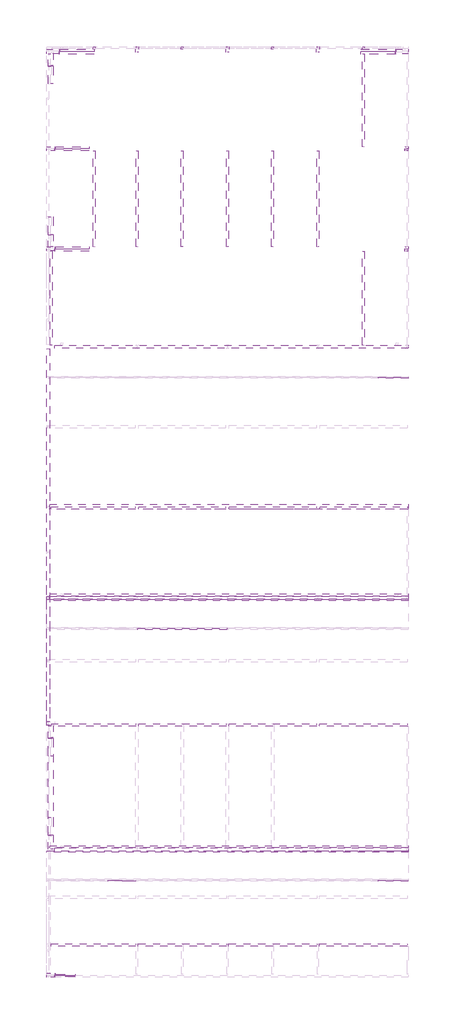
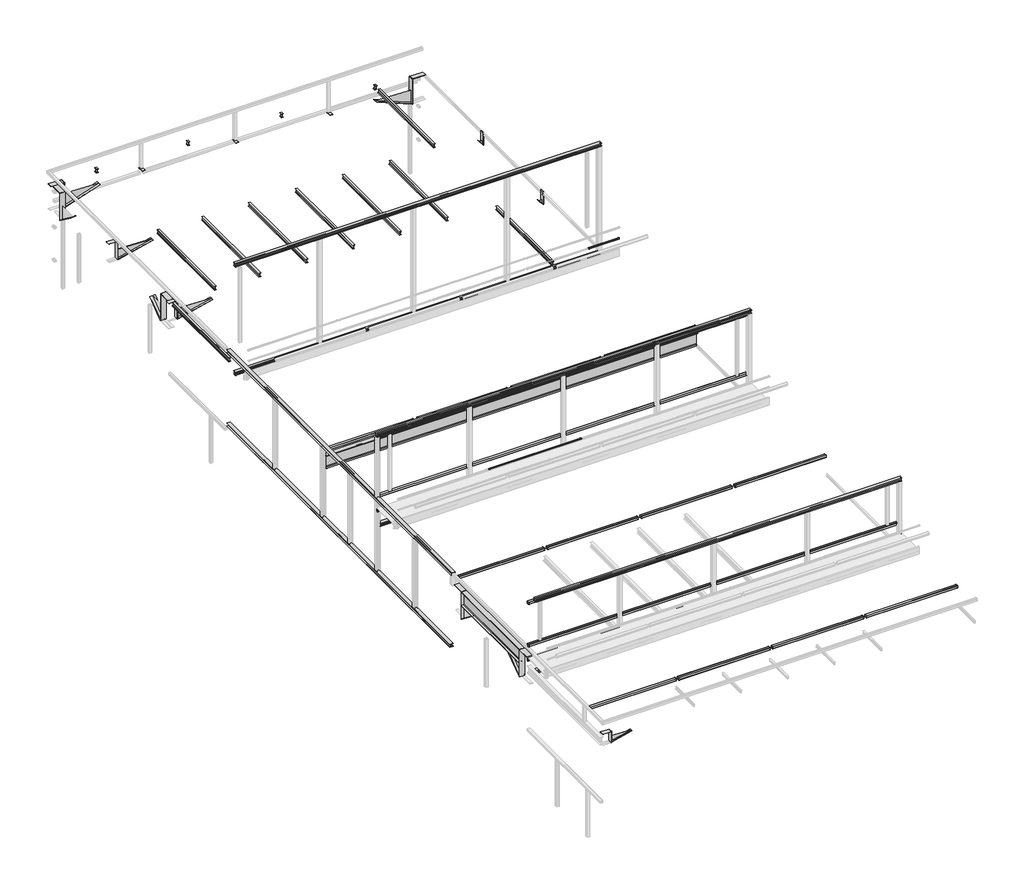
# One storey, part 3 of 3: 86 beams.
"""IFC4 building model written with IfcOpenShell, lengths in millimetres."""

from ifc_helpers import new_model, si_unit, origin, place, context, project, spatial, transform, mapped, element, save
from components import beam_8df134ad, beam_60513ef6, beam_6e87dec0, beam_342e43ec, beam_fe685b0a, beam_a9d04ade, beam_3557160a, beam_18f4dce0, beam_953cf9ca, beam_29cb8ae2, beam_3b9fbc20, beam_9fe14a1a, beam_0ae16295, beam_c2cc9b1c, beam_78534547, beam_fdceb515, beam_949ceba1, beam_a878d21b, beam_f56b2adc, beam_28902ba3, beam_5b75f4e0, beam_6628c262, beam_bd8bb5d3, lisse_21960_lisse_21960_dab4822d, lisse_23972_lisse_23972_bca0d4a3, lisse_25770_lisse_25770_3b2614e6, lisse_26660_lisse_26660_709af836, lisse_27856_lisse_27856_29aeeb25, lisse_29001_lisse_29001_18a444d3, lisse_29891_lisse_29891_af28d032, lisse_30475_lisse_30475_9e5390a8, lisse_31620_lisse_31620_59e303d5, lisse_32204_lisse_32204_c29b408f, lisse_33349_lisse_33349_2b0b3e01, lisse_33933_lisse_33933_85fa8269, lisse_38355_lisse_38355_100b9a3c, lisse_38939_lisse_38939_3ad9c1e5, lisse_39523_lisse_39523_e274b475, lisse_40107_lisse_40107_23017072, main_courante_63389_main_courante_63389_e2c9f11f, main_courante_64517_main_courante_64517_522b7e88, main_courante_65237_main_courante_65237_7609eb7e, main_courante_67714_main_courante_67714_b2ae646a, poteau_12005_poteau_12005_e48c42bd, poteau_12243_poteau_12243_12e06a7f, poteau_13348_poteau_13348_5517b0e7, poteau_13892_poteau_13892_4dcbb006, poteau_15099_poteau_15099_7426c992, poteau_17804_poteau_17804_b7bef1e8, poteau_18042_poteau_18042_edd5e09e, poteau_19404_poteau_19404_5077e3f3, poteau_56598_poteau_56598_82d68d1c, poteau_58944_poteau_58944_701dc477, poteau_59760_poteau_59760_fdbe92be, poteau_60474_poteau_60474_d7c3bdda, traverse_10883_traverse_10883_851edb39, traverse_10985_traverse_10985_980aa088, traverse_12634_traverse_12634_a5278155, traverse_14589_traverse_14589_74e63947, traverse_14691_traverse_14691_c724f752, traverse_15201_traverse_15201_00fd0003, traverse_15747_traverse_15747_f9a1cc1a, traverse_16155_traverse_16155_ce576ebf, traverse_16257_traverse_16257_f71b64b7, traverse_16359_traverse_16359_e9926a7b, traverse_16444_traverse_16444_2ea4da6f, traverse_16529_traverse_16529_c6d7372f, traverse_17073_traverse_17073_4efb1bc2, traverse_17175_traverse_17175_7bee451d, traverse_17702_traverse_17702_edc11967, traverse_18588_traverse_18588_b9e0aae4, traverse_18673_traverse_18673_326ecedf, traverse_18758_traverse_18758_3b46fa7b, traverse_18860_traverse_18860_c5b51de6, traverse_19812_traverse_19812_90324377, traverse_19914_traverse_19914_1ee3b8c6, traverse_43938_traverse_43938_9776f5c6, traverse_57006_traverse_57006_b238c5c5, traverse_57108_traverse_57108_6f135cb4, traverse_57516_traverse_57516_5519c754, traverse_57618_traverse_57618_0c66f7d8, traverse_58536_traverse_58536_0e78d85d, traverse_60168_traverse_60168_653ced95, traverse_60270_traverse_60270_47cd2858, traverse_60372_traverse_60372_93c19c04, traverse_61664_traverse_61664_11ca76d0

model = new_model("IFC4")

# Units and contexts
model_context = context("Model", 3, world=origin())
ifc_project = project(units=[si_unit("LENGTHUNIT", "METRE", prefix="MILLI")], contexts=[model_context])

# Site, building, storey
site = spatial("IfcSite", under=ifc_project)
building = spatial("IfcBuilding", under=site)
storey = spatial("IfcBuildingStorey", under=building, Name="__", Elevation=10.0)

# Beams
placement = place(None, origin())
beam_shape = beam_8df134ad(model_context)
element("IfcBeam", 1, ObjectType="Panne 341 : Panne 341", at=placement, inside=storey, context=model_context, shape_type="MappedRepresentation", body=[
    mapped(beam_shape, transform((0.0, 0.0, 0.0), x_axis=(1.0, 0.0, 0.0), y_axis=(0.0, 1.0, 0.0), z_axis=(0.0, 0.0, 1.0))),
])
beam_2_shape = beam_60513ef6(model_context)
element("IfcBeam", 2, ObjectType="Panne 647 : Panne 647", at=placement, inside=storey, context=model_context, shape_type="MappedRepresentation", body=[
    mapped(beam_2_shape, transform((0.0, 0.0, 0.0), x_axis=(1.0, 0.0, 0.0), y_axis=(0.0, 1.0, 0.0), z_axis=(0.0, 0.0, 1.0))),
])
beam_3_shape = beam_6e87dec0(model_context)
element("IfcBeam", 3, ObjectType="Panne 1565 : Panne 1565", at=placement, inside=storey, context=model_context, shape_type="MappedRepresentation", body=[
    mapped(beam_3_shape, transform((0.0, 0.0, 0.0), x_axis=(1.0, 0.0, 0.0), y_axis=(0.0, 1.0, 0.0), z_axis=(0.0, 0.0, 1.0))),
])
beam_4_shape = beam_342e43ec(model_context)
element("IfcBeam", 4, ObjectType="Panne 1871 : Panne 1871", at=placement, inside=storey, context=model_context, shape_type="MappedRepresentation", body=[
    mapped(beam_4_shape, transform((0.0, 0.0, 0.0), x_axis=(1.0, 0.0, 0.0), y_axis=(0.0, 1.0, 0.0), z_axis=(0.0, 0.0, 1.0))),
])
beam_5_shape = beam_fe685b0a(model_context)
element("IfcBeam", 5, ObjectType="Panne 2840 : Panne 2840", at=placement, inside=storey, context=model_context, shape_type="MappedRepresentation", body=[
    mapped(beam_5_shape, transform((0.0, 0.0, 0.0), x_axis=(1.0, 0.0, 0.0), y_axis=(0.0, 1.0, 0.0), z_axis=(0.0, 0.0, 1.0))),
])
beam_6_shape = beam_a9d04ade(model_context)
element("IfcBeam", 6, ObjectType="Panne 3452 : Panne 3452", at=placement, inside=storey, context=model_context, shape_type="MappedRepresentation", body=[
    mapped(beam_6_shape, transform((0.0, 0.0, 0.0), x_axis=(1.0, 0.0, 0.0), y_axis=(0.0, 1.0, 0.0), z_axis=(0.0, 0.0, 1.0))),
])
beam_7_shape = beam_3557160a(model_context)
element("IfcBeam", 7, ObjectType="Panne 4795 : Panne 4795", at=placement, inside=storey, context=model_context, shape_type="MappedRepresentation", body=[
    mapped(beam_7_shape, transform((0.0, 0.0, 0.0), x_axis=(1.0, 0.0, 0.0), y_axis=(0.0, 1.0, 0.0), z_axis=(0.0, 0.0, 1.0))),
])
beam_8_shape = beam_18f4dce0(model_context)
element("IfcBeam", 8, ObjectType="Panne 6393 : Panne 6393", at=placement, inside=storey, context=model_context, shape_type="MappedRepresentation", body=[
    mapped(beam_8_shape, transform((0.0, 0.0, 0.0), x_axis=(1.0, 0.0, 0.0), y_axis=(0.0, 1.0, 0.0), z_axis=(0.0, 0.0, 1.0))),
])
beam_9_shape = beam_953cf9ca(model_context)
element("IfcBeam", 9, ObjectType="Panne 6699 : Panne 6699", at=placement, inside=storey, context=model_context, shape_type="MappedRepresentation", body=[
    mapped(beam_9_shape, transform((0.0, 0.0, 0.0), x_axis=(1.0, 0.0, 0.0), y_axis=(0.0, 1.0, 0.0), z_axis=(0.0, 0.0, 1.0))),
])
beam_10_shape = beam_29cb8ae2(model_context)
element("IfcBeam", 10, ObjectType="Panne 7617 : Panne 7617", at=placement, inside=storey, context=model_context, shape_type="MappedRepresentation", body=[
    mapped(beam_10_shape, transform((0.0, 0.0, 0.0), x_axis=(1.0, 0.0, 0.0), y_axis=(0.0, 1.0, 0.0), z_axis=(0.0, 0.0, 1.0))),
])
beam_11_shape = beam_3b9fbc20(model_context)
element("IfcBeam", 11, ObjectType="Panne 8569 : Panne 8569", at=placement, inside=storey, context=model_context, shape_type="MappedRepresentation", body=[
    mapped(beam_11_shape, transform((0.0, 0.0, 0.0), x_axis=(1.0, 0.0, 0.0), y_axis=(0.0, 1.0, 0.0), z_axis=(0.0, 0.0, 1.0))),
])
beam_12_shape = beam_9fe14a1a(model_context)
element("IfcBeam", 12, ObjectType="Panne 10133 : Panne 10133", at=placement, inside=storey, context=model_context, shape_type="MappedRepresentation", body=[
    mapped(beam_12_shape, transform((0.0, 0.0, 0.0), x_axis=(1.0, 0.0, 0.0), y_axis=(0.0, 1.0, 0.0), z_axis=(0.0, 0.0, 1.0))),
])
beam_13_shape = beam_0ae16295(model_context)
element("IfcBeam", 13, ObjectType="Panne 10439 : Panne 10439", at=placement, inside=storey, context=model_context, shape_type="MappedRepresentation", body=[
    mapped(beam_13_shape, transform((0.0, 0.0, 0.0), x_axis=(1.0, 0.0, 0.0), y_axis=(0.0, 1.0, 0.0), z_axis=(0.0, 0.0, 1.0))),
])
beam_14_shape = beam_c2cc9b1c(model_context)
element("IfcBeam", 14, ObjectType="Membrure Haute 27272 : Membrure Haute 27272", at=placement, inside=storey, context=model_context, shape_type="MappedRepresentation", body=[
    mapped(beam_14_shape, transform((0.0, 0.0, 0.0), x_axis=(1.0, 0.0, 0.0), y_axis=(0.0, 1.0, 0.0), z_axis=(0.0, 0.0, 1.0))),
])
beam_15_shape = beam_78534547(model_context)
element("IfcBeam", 15, ObjectType="Membrure Haute 37771 : Membrure Haute 37771", at=placement, inside=storey, context=model_context, shape_type="MappedRepresentation", body=[
    mapped(beam_15_shape, transform((0.0, 0.0, 0.0), x_axis=(1.0, 0.0, 0.0), y_axis=(0.0, 1.0, 0.0), z_axis=(0.0, 0.0, 1.0))),
])
beam_16_shape = beam_fdceb515(model_context)
element("IfcBeam", 16, ObjectType="Membrure Haute 45408 : Membrure Haute 45408", at=placement, inside=storey, context=model_context, shape_type="MappedRepresentation", body=[
    mapped(beam_16_shape, transform((0.0, 0.0, 0.0), x_axis=(1.0, 0.0, 0.0), y_axis=(0.0, 1.0, 0.0), z_axis=(0.0, 0.0, 1.0))),
])
beam_17_shape = beam_949ceba1(model_context)
element("IfcBeam", 17, ObjectType="Membrure Haute 48064 : Membrure Haute 48064", at=placement, inside=storey, context=model_context, shape_type="MappedRepresentation", body=[
    mapped(beam_17_shape, transform((0.0, 0.0, 0.0), x_axis=(1.0, 0.0, 0.0), y_axis=(0.0, 1.0, 0.0), z_axis=(0.0, 0.0, 1.0))),
])
beam_18_shape = beam_a878d21b(model_context)
element("IfcBeam", 18, ObjectType="Membrure Haute 52164 : Membrure Haute 52164", at=placement, inside=storey, context=model_context, shape_type="MappedRepresentation", body=[
    mapped(beam_18_shape, transform((0.0, 0.0, 0.0), x_axis=(1.0, 0.0, 0.0), y_axis=(0.0, 1.0, 0.0), z_axis=(0.0, 0.0, 1.0))),
])
beam_19_shape = beam_f56b2adc(model_context)
element("IfcBeam", 19, ObjectType="Membrure Haute 53938 : Membrure Haute 53938", at=placement, inside=storey, context=model_context, shape_type="MappedRepresentation", body=[
    mapped(beam_19_shape, transform((0.0, 0.0, 0.0), x_axis=(1.0, 0.0, 0.0), y_axis=(0.0, 1.0, 0.0), z_axis=(0.0, 0.0, 1.0))),
])
beam_20_shape = beam_28902ba3(model_context)
element("IfcBeam", 20, ObjectType="Membrure Haute 55408 : Membrure Haute 55408", at=placement, inside=storey, context=model_context, shape_type="MappedRepresentation", body=[
    mapped(beam_20_shape, transform((0.0, 0.0, 0.0), x_axis=(1.0, 0.0, 0.0), y_axis=(0.0, 1.0, 0.0), z_axis=(0.0, 0.0, 1.0))),
])
beam_21_shape = beam_5b75f4e0(model_context)
element("IfcBeam", 21, ObjectType="Membrure basse 60066 : Membrure basse 60066", at=placement, inside=storey, context=model_context, shape_type="MappedRepresentation", body=[
    mapped(beam_21_shape, transform((0.0, 0.0, 0.0), x_axis=(1.0, 0.0, 0.0), y_axis=(0.0, 1.0, 0.0), z_axis=(0.0, 0.0, 1.0))),
])
beam_22_shape = beam_6628c262(model_context)
element("IfcBeam", 22, ObjectType=" 63593 :  63593", at=placement, inside=storey, context=model_context, shape_type="MappedRepresentation", body=[
    mapped(beam_22_shape, transform((0.0, 0.0, 0.0), x_axis=(1.0, 0.0, 0.0), y_axis=(0.0, 1.0, 0.0), z_axis=(0.0, 0.0, 1.0))),
])
beam_23_shape = beam_bd8bb5d3(model_context)
element("IfcBeam", 23, ObjectType=" 63797 :  63797", at=placement, inside=storey, context=model_context, shape_type="MappedRepresentation", body=[
    mapped(beam_23_shape, transform((0.0, 0.0, 0.0), x_axis=(1.0, 0.0, 0.0), y_axis=(0.0, 1.0, 0.0), z_axis=(0.0, 0.0, 1.0))),
])
lisse_21960_lisse_21960_shape = lisse_21960_lisse_21960_dab4822d(model_context)
element("IfcBeam", 24, ObjectType="Lisse 21960 : Lisse 21960", at=placement, inside=storey, context=model_context, shape_type="MappedRepresentation", body=[
    mapped(lisse_21960_lisse_21960_shape, transform((0.0, 0.0, 0.0), x_axis=(1.0, 0.0, 0.0), y_axis=(0.0, 1.0, 0.0), z_axis=(0.0, 0.0, 1.0))),
])
lisse_23972_lisse_23972_shape = lisse_23972_lisse_23972_bca0d4a3(model_context)
element("IfcBeam", 25, ObjectType="Lisse 23972 : Lisse 23972", at=placement, inside=storey, context=model_context, shape_type="MappedRepresentation", body=[
    mapped(lisse_23972_lisse_23972_shape, transform((0.0, 0.0, 0.0), x_axis=(1.0, 0.0, 0.0), y_axis=(0.0, 1.0, 0.0), z_axis=(0.0, 0.0, 1.0))),
])
lisse_25770_lisse_25770_shape = lisse_25770_lisse_25770_3b2614e6(model_context)
element("IfcBeam", 26, ObjectType="Lisse 25770 : Lisse 25770", at=placement, inside=storey, context=model_context, shape_type="MappedRepresentation", body=[
    mapped(lisse_25770_lisse_25770_shape, transform((0.0, 0.0, 0.0), x_axis=(1.0, 0.0, 0.0), y_axis=(0.0, 1.0, 0.0), z_axis=(0.0, 0.0, 1.0))),
])
lisse_26660_lisse_26660_shape = lisse_26660_lisse_26660_709af836(model_context)
element("IfcBeam", 27, ObjectType="Lisse 26660 : Lisse 26660", at=placement, inside=storey, context=model_context, shape_type="MappedRepresentation", body=[
    mapped(lisse_26660_lisse_26660_shape, transform((0.0, 0.0, 0.0), x_axis=(1.0, 0.0, 0.0), y_axis=(0.0, 1.0, 0.0), z_axis=(0.0, 0.0, 1.0))),
])
lisse_27856_lisse_27856_shape = lisse_27856_lisse_27856_29aeeb25(model_context)
element("IfcBeam", 28, ObjectType="Lisse 27856 : Lisse 27856", at=placement, inside=storey, context=model_context, shape_type="MappedRepresentation", body=[
    mapped(lisse_27856_lisse_27856_shape, transform((0.0, 0.0, 0.0), x_axis=(1.0, 0.0, 0.0), y_axis=(0.0, 1.0, 0.0), z_axis=(0.0, 0.0, 1.0))),
])
lisse_29001_lisse_29001_shape = lisse_29001_lisse_29001_18a444d3(model_context)
element("IfcBeam", 29, ObjectType="Lisse 29001 : Lisse 29001", at=placement, inside=storey, context=model_context, shape_type="MappedRepresentation", body=[
    mapped(lisse_29001_lisse_29001_shape, transform((0.0, 0.0, 0.0), x_axis=(1.0, 0.0, 0.0), y_axis=(0.0, 1.0, 0.0), z_axis=(0.0, 0.0, 1.0))),
])
lisse_29891_lisse_29891_shape = lisse_29891_lisse_29891_af28d032(model_context)
element("IfcBeam", 30, ObjectType="Lisse 29891 : Lisse 29891", at=placement, inside=storey, context=model_context, shape_type="MappedRepresentation", body=[
    mapped(lisse_29891_lisse_29891_shape, transform((0.0, 0.0, 0.0), x_axis=(1.0, 0.0, 0.0), y_axis=(0.0, 1.0, 0.0), z_axis=(0.0, 0.0, 1.0))),
])
lisse_30475_lisse_30475_shape = lisse_30475_lisse_30475_9e5390a8(model_context)
element("IfcBeam", 31, ObjectType="Lisse 30475 : Lisse 30475", at=placement, inside=storey, context=model_context, shape_type="MappedRepresentation", body=[
    mapped(lisse_30475_lisse_30475_shape, transform((0.0, 0.0, 0.0), x_axis=(1.0, 0.0, 0.0), y_axis=(0.0, 1.0, 0.0), z_axis=(0.0, 0.0, 1.0))),
])
lisse_31620_lisse_31620_shape = lisse_31620_lisse_31620_59e303d5(model_context)
element("IfcBeam", 32, ObjectType="Lisse 31620 : Lisse 31620", at=placement, inside=storey, context=model_context, shape_type="MappedRepresentation", body=[
    mapped(lisse_31620_lisse_31620_shape, transform((0.0, 0.0, 0.0), x_axis=(1.0, 0.0, 0.0), y_axis=(0.0, 1.0, 0.0), z_axis=(0.0, 0.0, 1.0))),
])
lisse_32204_lisse_32204_shape = lisse_32204_lisse_32204_c29b408f(model_context)
element("IfcBeam", 33, ObjectType="Lisse 32204 : Lisse 32204", at=placement, inside=storey, context=model_context, shape_type="MappedRepresentation", body=[
    mapped(lisse_32204_lisse_32204_shape, transform((0.0, 0.0, 0.0), x_axis=(1.0, 0.0, 0.0), y_axis=(0.0, 1.0, 0.0), z_axis=(0.0, 0.0, 1.0))),
])
lisse_33349_lisse_33349_shape = lisse_33349_lisse_33349_2b0b3e01(model_context)
element("IfcBeam", 34, ObjectType="Lisse 33349 : Lisse 33349", at=placement, inside=storey, context=model_context, shape_type="MappedRepresentation", body=[
    mapped(lisse_33349_lisse_33349_shape, transform((0.0, 0.0, 0.0), x_axis=(1.0, 0.0, 0.0), y_axis=(0.0, 1.0, 0.0), z_axis=(0.0, 0.0, 1.0))),
])
lisse_33933_lisse_33933_shape = lisse_33933_lisse_33933_85fa8269(model_context)
element("IfcBeam", 35, ObjectType="Lisse 33933 : Lisse 33933", at=placement, inside=storey, context=model_context, shape_type="MappedRepresentation", body=[
    mapped(lisse_33933_lisse_33933_shape, transform((0.0, 0.0, 0.0), x_axis=(1.0, 0.0, 0.0), y_axis=(0.0, 1.0, 0.0), z_axis=(0.0, 0.0, 1.0))),
])
lisse_38355_lisse_38355_shape = lisse_38355_lisse_38355_100b9a3c(model_context)
element("IfcBeam", 36, ObjectType="Lisse 38355 : Lisse 38355", at=placement, inside=storey, context=model_context, shape_type="MappedRepresentation", body=[
    mapped(lisse_38355_lisse_38355_shape, transform((0.0, 0.0, 0.0), x_axis=(1.0, 0.0, 0.0), y_axis=(0.0, 1.0, 0.0), z_axis=(0.0, 0.0, 1.0))),
])
lisse_38939_lisse_38939_shape = lisse_38939_lisse_38939_3ad9c1e5(model_context)
element("IfcBeam", 37, ObjectType="Lisse 38939 : Lisse 38939", at=placement, inside=storey, context=model_context, shape_type="MappedRepresentation", body=[
    mapped(lisse_38939_lisse_38939_shape, transform((0.0, 0.0, 0.0), x_axis=(1.0, 0.0, 0.0), y_axis=(0.0, 1.0, 0.0), z_axis=(0.0, 0.0, 1.0))),
])
lisse_39523_lisse_39523_shape = lisse_39523_lisse_39523_e274b475(model_context)
element("IfcBeam", 38, ObjectType="Lisse 39523 : Lisse 39523", at=placement, inside=storey, context=model_context, shape_type="MappedRepresentation", body=[
    mapped(lisse_39523_lisse_39523_shape, transform((0.0, 0.0, 0.0), x_axis=(1.0, 0.0, 0.0), y_axis=(0.0, 1.0, 0.0), z_axis=(0.0, 0.0, 1.0))),
])
lisse_40107_lisse_40107_shape = lisse_40107_lisse_40107_23017072(model_context)
element("IfcBeam", 39, ObjectType="Lisse 40107 : Lisse 40107", at=placement, inside=storey, context=model_context, shape_type="MappedRepresentation", body=[
    mapped(lisse_40107_lisse_40107_shape, transform((0.0, 0.0, 0.0), x_axis=(1.0, 0.0, 0.0), y_axis=(0.0, 1.0, 0.0), z_axis=(0.0, 0.0, 1.0))),
])
main_courante_63389_main_courante_63389_shape = main_courante_63389_main_courante_63389_e2c9f11f(model_context)
element("IfcBeam", 40, ObjectType="Main courante 63389 : Main courante 63389", at=placement, inside=storey, context=model_context, shape_type="MappedRepresentation", body=[
    mapped(main_courante_63389_main_courante_63389_shape, transform((0.0, 0.0, 0.0), x_axis=(1.0, 0.0, 0.0), y_axis=(0.0, 1.0, 0.0), z_axis=(0.0, 0.0, 1.0))),
])
main_courante_64517_main_courante_64517_shape = main_courante_64517_main_courante_64517_522b7e88(model_context)
element("IfcBeam", 41, ObjectType="Main courante 64517 : Main courante 64517", at=placement, inside=storey, context=model_context, shape_type="MappedRepresentation", body=[
    mapped(main_courante_64517_main_courante_64517_shape, transform((0.0, 0.0, 0.0), x_axis=(1.0, 0.0, 0.0), y_axis=(0.0, 1.0, 0.0), z_axis=(0.0, 0.0, 1.0))),
])
main_courante_65237_main_courante_65237_shape = main_courante_65237_main_courante_65237_7609eb7e(model_context)
element("IfcBeam", 42, ObjectType="Main courante 65237 : Main courante 65237", at=placement, inside=storey, context=model_context, shape_type="MappedRepresentation", body=[
    mapped(main_courante_65237_main_courante_65237_shape, transform((0.0, 0.0, 0.0), x_axis=(1.0, 0.0, 0.0), y_axis=(0.0, 1.0, 0.0), z_axis=(0.0, 0.0, 1.0))),
])
main_courante_67714_main_courante_67714_shape = main_courante_67714_main_courante_67714_b2ae646a(model_context)
element("IfcBeam", 43, ObjectType="Main courante 67714 : Main courante 67714", at=placement, inside=storey, context=model_context, shape_type="MappedRepresentation", body=[
    mapped(main_courante_67714_main_courante_67714_shape, transform((0.0, 0.0, 0.0), x_axis=(1.0, 0.0, 0.0), y_axis=(0.0, 1.0, 0.0), z_axis=(0.0, 0.0, 1.0))),
])
poteau_12005_poteau_12005_shape = poteau_12005_poteau_12005_e48c42bd(model_context)
element("IfcBeam", 44, ObjectType="Poteau 12005 : Poteau 12005", at=placement, inside=storey, context=model_context, shape_type="MappedRepresentation", body=[
    mapped(poteau_12005_poteau_12005_shape, transform((0.0, 0.0, 0.0), x_axis=(1.0, 0.0, 0.0), y_axis=(0.0, 1.0, 0.0), z_axis=(0.0, 0.0, 1.0))),
])
poteau_12243_poteau_12243_shape = poteau_12243_poteau_12243_12e06a7f(model_context)
element("IfcBeam", 45, ObjectType="Poteau 12243 : Poteau 12243", at=placement, inside=storey, context=model_context, shape_type="MappedRepresentation", body=[
    mapped(poteau_12243_poteau_12243_shape, transform((0.0, 0.0, 0.0), x_axis=(1.0, 0.0, 0.0), y_axis=(0.0, 1.0, 0.0), z_axis=(0.0, 0.0, 1.0))),
])
poteau_13348_poteau_13348_shape = poteau_13348_poteau_13348_5517b0e7(model_context)
element("IfcBeam", 46, ObjectType="Poteau 13348 : Poteau 13348", at=placement, inside=storey, context=model_context, shape_type="MappedRepresentation", body=[
    mapped(poteau_13348_poteau_13348_shape, transform((0.0, 0.0, 0.0), x_axis=(1.0, 0.0, 0.0), y_axis=(0.0, 1.0, 0.0), z_axis=(0.0, 0.0, 1.0))),
])
poteau_13892_poteau_13892_shape = poteau_13892_poteau_13892_4dcbb006(model_context)
element("IfcBeam", 47, ObjectType="Poteau 13892 : Poteau 13892", at=placement, inside=storey, context=model_context, shape_type="MappedRepresentation", body=[
    mapped(poteau_13892_poteau_13892_shape, transform((0.0, 0.0, 0.0), x_axis=(1.0, 0.0, 0.0), y_axis=(0.0, 1.0, 0.0), z_axis=(0.0, 0.0, 1.0))),
])
poteau_15099_poteau_15099_shape = poteau_15099_poteau_15099_7426c992(model_context)
element("IfcBeam", 48, ObjectType="Poteau 15099 : Poteau 15099", at=placement, inside=storey, context=model_context, shape_type="MappedRepresentation", body=[
    mapped(poteau_15099_poteau_15099_shape, transform((0.0, 0.0, 0.0), x_axis=(1.0, 0.0, 0.0), y_axis=(0.0, 1.0, 0.0), z_axis=(0.0, 0.0, 1.0))),
])
poteau_17804_poteau_17804_shape = poteau_17804_poteau_17804_b7bef1e8(model_context)
element("IfcBeam", 49, ObjectType="Poteau 17804 : Poteau 17804", at=placement, inside=storey, context=model_context, shape_type="MappedRepresentation", body=[
    mapped(poteau_17804_poteau_17804_shape, transform((0.0, 0.0, 0.0), x_axis=(1.0, 0.0, 0.0), y_axis=(0.0, 1.0, 0.0), z_axis=(0.0, 0.0, 1.0))),
])
poteau_18042_poteau_18042_shape = poteau_18042_poteau_18042_edd5e09e(model_context)
element("IfcBeam", 50, ObjectType="Poteau 18042 : Poteau 18042", at=placement, inside=storey, context=model_context, shape_type="MappedRepresentation", body=[
    mapped(poteau_18042_poteau_18042_shape, transform((0.0, 0.0, 0.0), x_axis=(1.0, 0.0, 0.0), y_axis=(0.0, 1.0, 0.0), z_axis=(0.0, 0.0, 1.0))),
])
poteau_19404_poteau_19404_shape = poteau_19404_poteau_19404_5077e3f3(model_context)
element("IfcBeam", 51, ObjectType="Poteau 19404 : Poteau 19404", at=placement, inside=storey, context=model_context, shape_type="MappedRepresentation", body=[
    mapped(poteau_19404_poteau_19404_shape, transform((0.0, 0.0, 0.0), x_axis=(1.0, 0.0, 0.0), y_axis=(0.0, 1.0, 0.0), z_axis=(0.0, 0.0, 1.0))),
])
poteau_56598_poteau_56598_shape = poteau_56598_poteau_56598_82d68d1c(model_context)
element("IfcBeam", 52, ObjectType="Poteau 56598 : Poteau 56598", at=placement, inside=storey, context=model_context, shape_type="MappedRepresentation", body=[
    mapped(poteau_56598_poteau_56598_shape, transform((0.0, 0.0, 0.0), x_axis=(1.0, 0.0, 0.0), y_axis=(0.0, 1.0, 0.0), z_axis=(0.0, 0.0, 1.0))),
])
poteau_58944_poteau_58944_shape = poteau_58944_poteau_58944_701dc477(model_context)
element("IfcBeam", 53, ObjectType="Poteau 58944 : Poteau 58944", at=placement, inside=storey, context=model_context, shape_type="MappedRepresentation", body=[
    mapped(poteau_58944_poteau_58944_shape, transform((0.0, 0.0, 0.0), x_axis=(1.0, 0.0, 0.0), y_axis=(0.0, 1.0, 0.0), z_axis=(0.0, 0.0, 1.0))),
])
poteau_59760_poteau_59760_shape = poteau_59760_poteau_59760_fdbe92be(model_context)
element("IfcBeam", 54, ObjectType="Poteau 59760 : Poteau 59760", at=placement, inside=storey, context=model_context, shape_type="MappedRepresentation", body=[
    mapped(poteau_59760_poteau_59760_shape, transform((0.0, 0.0, 0.0), x_axis=(1.0, 0.0, 0.0), y_axis=(0.0, 1.0, 0.0), z_axis=(0.0, 0.0, 1.0))),
])
poteau_60474_poteau_60474_shape = poteau_60474_poteau_60474_d7c3bdda(model_context)
element("IfcBeam", 55, ObjectType="Poteau 60474 : Poteau 60474", at=placement, inside=storey, context=model_context, shape_type="MappedRepresentation", body=[
    mapped(poteau_60474_poteau_60474_shape, transform((0.0, 0.0, 0.0), x_axis=(1.0, 0.0, 0.0), y_axis=(0.0, 1.0, 0.0), z_axis=(0.0, 0.0, 1.0))),
])
traverse_10883_traverse_10883_shape = traverse_10883_traverse_10883_851edb39(model_context)
element("IfcBeam", 56, ObjectType="Traverse 10883 : Traverse 10883", at=placement, inside=storey, context=model_context, shape_type="MappedRepresentation", body=[
    mapped(traverse_10883_traverse_10883_shape, transform((0.0, 0.0, 0.0), x_axis=(1.0, 0.0, 0.0), y_axis=(0.0, 1.0, 0.0), z_axis=(0.0, 0.0, 1.0))),
])
traverse_10985_traverse_10985_shape = traverse_10985_traverse_10985_980aa088(model_context)
element("IfcBeam", 57, ObjectType="Traverse 10985 : Traverse 10985", at=placement, inside=storey, context=model_context, shape_type="MappedRepresentation", body=[
    mapped(traverse_10985_traverse_10985_shape, transform((0.0, 0.0, 0.0), x_axis=(1.0, 0.0, 0.0), y_axis=(0.0, 1.0, 0.0), z_axis=(0.0, 0.0, 1.0))),
])
traverse_12634_traverse_12634_shape = traverse_12634_traverse_12634_a5278155(model_context)
element("IfcBeam", 58, ObjectType="Traverse 12634 : Traverse 12634", at=placement, inside=storey, context=model_context, shape_type="MappedRepresentation", body=[
    mapped(traverse_12634_traverse_12634_shape, transform((0.0, 0.0, 0.0), x_axis=(1.0, 0.0, 0.0), y_axis=(0.0, 1.0, 0.0), z_axis=(0.0, 0.0, 1.0))),
])
traverse_14589_traverse_14589_shape = traverse_14589_traverse_14589_74e63947(model_context)
element("IfcBeam", 59, ObjectType="Traverse 14589 : Traverse 14589", at=placement, inside=storey, context=model_context, shape_type="MappedRepresentation", body=[
    mapped(traverse_14589_traverse_14589_shape, transform((0.0, 0.0, 0.0), x_axis=(1.0, 0.0, 0.0), y_axis=(0.0, 1.0, 0.0), z_axis=(0.0, 0.0, 1.0))),
])
traverse_14691_traverse_14691_shape = traverse_14691_traverse_14691_c724f752(model_context)
element("IfcBeam", 60, ObjectType="Traverse 14691 : Traverse 14691", at=placement, inside=storey, context=model_context, shape_type="MappedRepresentation", body=[
    mapped(traverse_14691_traverse_14691_shape, transform((0.0, 0.0, 0.0), x_axis=(1.0, 0.0, 0.0), y_axis=(0.0, 1.0, 0.0), z_axis=(0.0, 0.0, 1.0))),
])
traverse_15201_traverse_15201_shape = traverse_15201_traverse_15201_00fd0003(model_context)
element("IfcBeam", 61, ObjectType="Traverse 15201 : Traverse 15201", at=placement, inside=storey, context=model_context, shape_type="MappedRepresentation", body=[
    mapped(traverse_15201_traverse_15201_shape, transform((0.0, 0.0, 0.0), x_axis=(1.0, 0.0, 0.0), y_axis=(0.0, 1.0, 0.0), z_axis=(0.0, 0.0, 1.0))),
])
traverse_15747_traverse_15747_shape = traverse_15747_traverse_15747_f9a1cc1a(model_context)
element("IfcBeam", 62, ObjectType="Traverse 15747 : Traverse 15747", at=placement, inside=storey, context=model_context, shape_type="MappedRepresentation", body=[
    mapped(traverse_15747_traverse_15747_shape, transform((0.0, 0.0, 0.0), x_axis=(1.0, 0.0, 0.0), y_axis=(0.0, 1.0, 0.0), z_axis=(0.0, 0.0, 1.0))),
])
traverse_16155_traverse_16155_shape = traverse_16155_traverse_16155_ce576ebf(model_context)
element("IfcBeam", 63, ObjectType="Traverse 16155 : Traverse 16155", at=placement, inside=storey, context=model_context, shape_type="MappedRepresentation", body=[
    mapped(traverse_16155_traverse_16155_shape, transform((0.0, 0.0, 0.0), x_axis=(1.0, 0.0, 0.0), y_axis=(0.0, 1.0, 0.0), z_axis=(0.0, 0.0, 1.0))),
])
traverse_16257_traverse_16257_shape = traverse_16257_traverse_16257_f71b64b7(model_context)
element("IfcBeam", 64, ObjectType="Traverse 16257 : Traverse 16257", at=placement, inside=storey, context=model_context, shape_type="MappedRepresentation", body=[
    mapped(traverse_16257_traverse_16257_shape, transform((0.0, 0.0, 0.0), x_axis=(1.0, 0.0, 0.0), y_axis=(0.0, 1.0, 0.0), z_axis=(0.0, 0.0, 1.0))),
])
traverse_16359_traverse_16359_shape = traverse_16359_traverse_16359_e9926a7b(model_context)
element("IfcBeam", 65, ObjectType="Traverse 16359 : Traverse 16359", at=placement, inside=storey, context=model_context, shape_type="MappedRepresentation", body=[
    mapped(traverse_16359_traverse_16359_shape, transform((0.0, 0.0, 0.0), x_axis=(1.0, 0.0, 0.0), y_axis=(0.0, 1.0, 0.0), z_axis=(0.0, 0.0, 1.0))),
])
traverse_16444_traverse_16444_shape = traverse_16444_traverse_16444_2ea4da6f(model_context)
element("IfcBeam", 66, ObjectType="Traverse 16444 : Traverse 16444", at=placement, inside=storey, context=model_context, shape_type="MappedRepresentation", body=[
    mapped(traverse_16444_traverse_16444_shape, transform((0.0, 0.0, 0.0), x_axis=(1.0, 0.0, 0.0), y_axis=(0.0, 1.0, 0.0), z_axis=(0.0, 0.0, 1.0))),
])
traverse_16529_traverse_16529_shape = traverse_16529_traverse_16529_c6d7372f(model_context)
element("IfcBeam", 67, ObjectType="Traverse 16529 : Traverse 16529", at=placement, inside=storey, context=model_context, shape_type="MappedRepresentation", body=[
    mapped(traverse_16529_traverse_16529_shape, transform((0.0, 0.0, 0.0), x_axis=(1.0, 0.0, 0.0), y_axis=(0.0, 1.0, 0.0), z_axis=(0.0, 0.0, 1.0))),
])
traverse_17073_traverse_17073_shape = traverse_17073_traverse_17073_4efb1bc2(model_context)
element("IfcBeam", 68, ObjectType="Traverse 17073 : Traverse 17073", at=placement, inside=storey, context=model_context, shape_type="MappedRepresentation", body=[
    mapped(traverse_17073_traverse_17073_shape, transform((0.0, 0.0, 0.0), x_axis=(1.0, 0.0, 0.0), y_axis=(0.0, 1.0, 0.0), z_axis=(0.0, 0.0, 1.0))),
])
traverse_17175_traverse_17175_shape = traverse_17175_traverse_17175_7bee451d(model_context)
element("IfcBeam", 69, ObjectType="Traverse 17175 : Traverse 17175", at=placement, inside=storey, context=model_context, shape_type="MappedRepresentation", body=[
    mapped(traverse_17175_traverse_17175_shape, transform((0.0, 0.0, 0.0), x_axis=(1.0, 0.0, 0.0), y_axis=(0.0, 1.0, 0.0), z_axis=(0.0, 0.0, 1.0))),
])
traverse_17702_traverse_17702_shape = traverse_17702_traverse_17702_edc11967(model_context)
element("IfcBeam", 70, ObjectType="Traverse 17702 : Traverse 17702", at=placement, inside=storey, context=model_context, shape_type="MappedRepresentation", body=[
    mapped(traverse_17702_traverse_17702_shape, transform((0.0, 0.0, 0.0), x_axis=(1.0, 0.0, 0.0), y_axis=(0.0, 1.0, 0.0), z_axis=(0.0, 0.0, 1.0))),
])
traverse_18588_traverse_18588_shape = traverse_18588_traverse_18588_b9e0aae4(model_context)
element("IfcBeam", 71, ObjectType="Traverse 18588 : Traverse 18588", at=placement, inside=storey, context=model_context, shape_type="MappedRepresentation", body=[
    mapped(traverse_18588_traverse_18588_shape, transform((0.0, 0.0, 0.0), x_axis=(1.0, 0.0, 0.0), y_axis=(0.0, 1.0, 0.0), z_axis=(0.0, 0.0, 1.0))),
])
traverse_18673_traverse_18673_shape = traverse_18673_traverse_18673_326ecedf(model_context)
element("IfcBeam", 72, ObjectType="Traverse 18673 : Traverse 18673", at=placement, inside=storey, context=model_context, shape_type="MappedRepresentation", body=[
    mapped(traverse_18673_traverse_18673_shape, transform((0.0, 0.0, 0.0), x_axis=(1.0, 0.0, 0.0), y_axis=(0.0, 1.0, 0.0), z_axis=(0.0, 0.0, 1.0))),
])
traverse_18758_traverse_18758_shape = traverse_18758_traverse_18758_3b46fa7b(model_context)
element("IfcBeam", 73, ObjectType="Traverse 18758 : Traverse 18758", at=placement, inside=storey, context=model_context, shape_type="MappedRepresentation", body=[
    mapped(traverse_18758_traverse_18758_shape, transform((0.0, 0.0, 0.0), x_axis=(1.0, 0.0, 0.0), y_axis=(0.0, 1.0, 0.0), z_axis=(0.0, 0.0, 1.0))),
])
traverse_18860_traverse_18860_shape = traverse_18860_traverse_18860_c5b51de6(model_context)
element("IfcBeam", 74, ObjectType="Traverse 18860 : Traverse 18860", at=placement, inside=storey, context=model_context, shape_type="MappedRepresentation", body=[
    mapped(traverse_18860_traverse_18860_shape, transform((0.0, 0.0, 0.0), x_axis=(1.0, 0.0, 0.0), y_axis=(0.0, 1.0, 0.0), z_axis=(0.0, 0.0, 1.0))),
])
traverse_19812_traverse_19812_shape = traverse_19812_traverse_19812_90324377(model_context)
element("IfcBeam", 75, ObjectType="Traverse 19812 : Traverse 19812", at=placement, inside=storey, context=model_context, shape_type="MappedRepresentation", body=[
    mapped(traverse_19812_traverse_19812_shape, transform((0.0, 0.0, 0.0), x_axis=(1.0, 0.0, 0.0), y_axis=(0.0, 1.0, 0.0), z_axis=(0.0, 0.0, 1.0))),
])
traverse_19914_traverse_19914_shape = traverse_19914_traverse_19914_1ee3b8c6(model_context)
element("IfcBeam", 76, ObjectType="Traverse 19914 : Traverse 19914", at=placement, inside=storey, context=model_context, shape_type="MappedRepresentation", body=[
    mapped(traverse_19914_traverse_19914_shape, transform((0.0, 0.0, 0.0), x_axis=(1.0, 0.0, 0.0), y_axis=(0.0, 1.0, 0.0), z_axis=(0.0, 0.0, 1.0))),
])
traverse_43938_traverse_43938_shape = traverse_43938_traverse_43938_9776f5c6(model_context)
element("IfcBeam", 77, ObjectType="Traverse 43938 : Traverse 43938", at=placement, inside=storey, context=model_context, shape_type="MappedRepresentation", body=[
    mapped(traverse_43938_traverse_43938_shape, transform((0.0, 0.0, 0.0), x_axis=(1.0, 0.0, 0.0), y_axis=(0.0, 1.0, 0.0), z_axis=(0.0, 0.0, 1.0))),
])
traverse_57006_traverse_57006_shape = traverse_57006_traverse_57006_b238c5c5(model_context)
element("IfcBeam", 78, ObjectType="Traverse 57006 : Traverse 57006", at=placement, inside=storey, context=model_context, shape_type="MappedRepresentation", body=[
    mapped(traverse_57006_traverse_57006_shape, transform((0.0, 0.0, 0.0), x_axis=(1.0, 0.0, 0.0), y_axis=(0.0, 1.0, 0.0), z_axis=(0.0, 0.0, 1.0))),
])
traverse_57108_traverse_57108_shape = traverse_57108_traverse_57108_6f135cb4(model_context)
element("IfcBeam", 79, ObjectType="Traverse 57108 : Traverse 57108", at=placement, inside=storey, context=model_context, shape_type="MappedRepresentation", body=[
    mapped(traverse_57108_traverse_57108_shape, transform((0.0, 0.0, 0.0), x_axis=(1.0, 0.0, 0.0), y_axis=(0.0, 1.0, 0.0), z_axis=(0.0, 0.0, 1.0))),
])
traverse_57516_traverse_57516_shape = traverse_57516_traverse_57516_5519c754(model_context)
element("IfcBeam", 80, ObjectType="Traverse 57516 : Traverse 57516", at=placement, inside=storey, context=model_context, shape_type="MappedRepresentation", body=[
    mapped(traverse_57516_traverse_57516_shape, transform((0.0, 0.0, 0.0), x_axis=(1.0, 0.0, 0.0), y_axis=(0.0, 1.0, 0.0), z_axis=(0.0, 0.0, 1.0))),
])
traverse_57618_traverse_57618_shape = traverse_57618_traverse_57618_0c66f7d8(model_context)
element("IfcBeam", 81, ObjectType="Traverse 57618 : Traverse 57618", at=placement, inside=storey, context=model_context, shape_type="MappedRepresentation", body=[
    mapped(traverse_57618_traverse_57618_shape, transform((0.0, 0.0, 0.0), x_axis=(1.0, 0.0, 0.0), y_axis=(0.0, 1.0, 0.0), z_axis=(0.0, 0.0, 1.0))),
])
traverse_58536_traverse_58536_shape = traverse_58536_traverse_58536_0e78d85d(model_context)
element("IfcBeam", 82, ObjectType="Traverse 58536 : Traverse 58536", at=placement, inside=storey, context=model_context, shape_type="MappedRepresentation", body=[
    mapped(traverse_58536_traverse_58536_shape, transform((0.0, 0.0, 0.0), x_axis=(1.0, 0.0, 0.0), y_axis=(0.0, 1.0, 0.0), z_axis=(0.0, 0.0, 1.0))),
])
traverse_60168_traverse_60168_shape = traverse_60168_traverse_60168_653ced95(model_context)
element("IfcBeam", 83, ObjectType="Traverse 60168 : Traverse 60168", at=placement, inside=storey, context=model_context, shape_type="MappedRepresentation", body=[
    mapped(traverse_60168_traverse_60168_shape, transform((0.0, 0.0, 0.0), x_axis=(1.0, 0.0, 0.0), y_axis=(0.0, 1.0, 0.0), z_axis=(0.0, 0.0, 1.0))),
])
traverse_60270_traverse_60270_shape = traverse_60270_traverse_60270_47cd2858(model_context)
element("IfcBeam", 84, ObjectType="Traverse 60270 : Traverse 60270", at=placement, inside=storey, context=model_context, shape_type="MappedRepresentation", body=[
    mapped(traverse_60270_traverse_60270_shape, transform((0.0, 0.0, 0.0), x_axis=(1.0, 0.0, 0.0), y_axis=(0.0, 1.0, 0.0), z_axis=(0.0, 0.0, 1.0))),
])
traverse_60372_traverse_60372_shape = traverse_60372_traverse_60372_93c19c04(model_context)
element("IfcBeam", 85, ObjectType="Traverse 60372 : Traverse 60372", at=placement, inside=storey, context=model_context, shape_type="MappedRepresentation", body=[
    mapped(traverse_60372_traverse_60372_shape, transform((0.0, 0.0, 0.0), x_axis=(1.0, 0.0, 0.0), y_axis=(0.0, 1.0, 0.0), z_axis=(0.0, 0.0, 1.0))),
])
traverse_61664_traverse_61664_shape = traverse_61664_traverse_61664_11ca76d0(model_context)
element("IfcBeam", 86, ObjectType="Traverse 61664 : Traverse 61664", at=placement, inside=storey, context=model_context, shape_type="MappedRepresentation", body=[
    mapped(traverse_61664_traverse_61664_shape, transform((0.0, 0.0, 0.0), x_axis=(1.0, 0.0, 0.0), y_axis=(0.0, 1.0, 0.0), z_axis=(0.0, 0.0, 1.0))),
])

save(model, "model.ifc")
